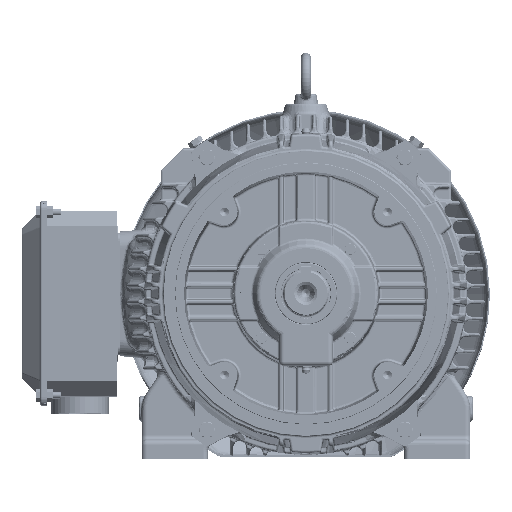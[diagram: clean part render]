
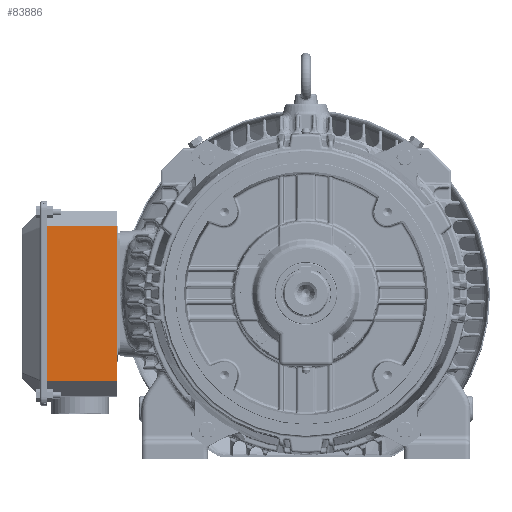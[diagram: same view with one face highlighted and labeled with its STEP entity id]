
A CAD part, top view. The second image highlights one B-rep face of the part: STEP entity #83886.
In plain terms, the highlighted planar face has unit normal (0, 0, 1).
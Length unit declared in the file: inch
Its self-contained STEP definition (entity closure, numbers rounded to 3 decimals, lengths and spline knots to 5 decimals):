
#178 = LINE ( 'NONE', #41760, #209750 ) ;
#17714 = CARTESIAN_POINT ( 'NONE',  ( -12.38189, 3.22047, 3.89764 ) ) ;
#41760 = CARTESIAN_POINT ( 'NONE',  ( -12.38189, 3.22047, 3.89764 ) ) ;
#81754 = VECTOR ( 'NONE', #190933, 39.37008 ) ;
#83886 = ADVANCED_FACE ( 'NONE', ( #91757 ), #362303, .F. ) ;
#90160 = DIRECTION ( 'NONE',  ( 0., -1., 0. ) ) ;
#91729 = LINE ( 'NONE', #176108, #180267 ) ;
#91757 = FACE_OUTER_BOUND ( 'NONE', #221594, .T. ) ;
#93599 = VERTEX_POINT ( 'NONE', #17714 ) ;
#105803 = EDGE_CURVE ( 'NONE', #181737, #143302, #293600, .T. ) ;
#107644 = ORIENTED_EDGE ( 'NONE', *, *, #336667, .T. ) ;
#108922 = EDGE_CURVE ( 'NONE', #93599, #182775, #91729, .T. ) ;
#117600 = CARTESIAN_POINT ( 'NONE',  ( -12.38189, -4.16535, 3.89764 ) ) ;
#143302 = VERTEX_POINT ( 'NONE', #225615 ) ;
#159617 = DIRECTION ( 'NONE',  ( 0., 0., -1. ) ) ;
#176108 = CARTESIAN_POINT ( 'NONE',  ( -12.38189, 6.14567, 3.89764 ) ) ;
#180267 = VECTOR ( 'NONE', #90160, 39.37008 ) ;
#181737 = VERTEX_POINT ( 'NONE', #220707 ) ;
#182775 = VERTEX_POINT ( 'NONE', #117600 ) ;
#190933 = DIRECTION ( 'NONE',  ( 1., 0., 0. ) ) ;
#209750 = VECTOR ( 'NONE', #238582, 39.37008 ) ;
#215368 = LINE ( 'NONE', #253148, #81754 ) ;
#220707 = CARTESIAN_POINT ( 'NONE',  ( -9.01575, 3.22047, 3.89764 ) ) ;
#221594 = EDGE_LOOP ( 'NONE', ( #302379, #255021, #278631, #107644 ) ) ;
#222467 = VECTOR ( 'NONE', #328783, 39.37008 ) ;
#225615 = CARTESIAN_POINT ( 'NONE',  ( -9.01575, -4.16535, 3.89764 ) ) ;
#238582 = DIRECTION ( 'NONE',  ( -1., 0., 0. ) ) ;
#238787 = EDGE_CURVE ( 'NONE', #182775, #143302, #215368, .T. ) ;
#253148 = CARTESIAN_POINT ( 'NONE',  ( -12.38189, -4.16535, 3.89764 ) ) ;
#255021 = ORIENTED_EDGE ( 'NONE', *, *, #238787, .T. ) ;
#271552 = CARTESIAN_POINT ( 'NONE',  ( -9.01575, -5.25197, 3.89764 ) ) ;
#275272 = DIRECTION ( 'NONE',  ( -1., 0., 0. ) ) ;
#278631 = ORIENTED_EDGE ( 'NONE', *, *, #105803, .F. ) ;
#293600 = LINE ( 'NONE', #271552, #222467 ) ;
#302379 = ORIENTED_EDGE ( 'NONE', *, *, #108922, .T. ) ;
#303876 = CARTESIAN_POINT ( 'NONE',  ( -12.38189, 6.14567, 3.89764 ) ) ;
#328783 = DIRECTION ( 'NONE',  ( 0., -1., 0. ) ) ;
#336667 = EDGE_CURVE ( 'NONE', #181737, #93599, #178, .T. ) ;
#342770 = AXIS2_PLACEMENT_3D ( 'NONE', #303876, #159617, #275272 ) ;
#362303 = PLANE ( 'NONE',  #342770 ) ;
